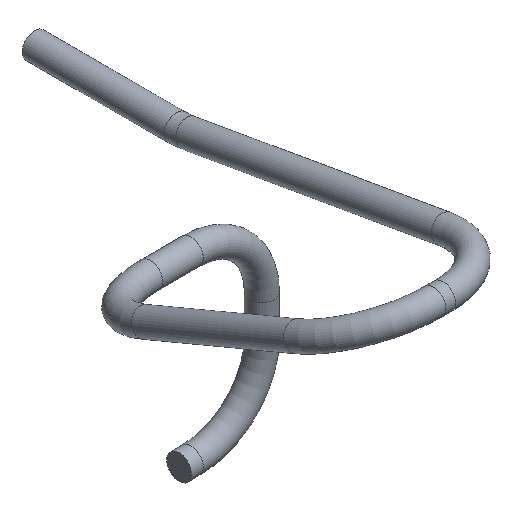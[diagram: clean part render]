
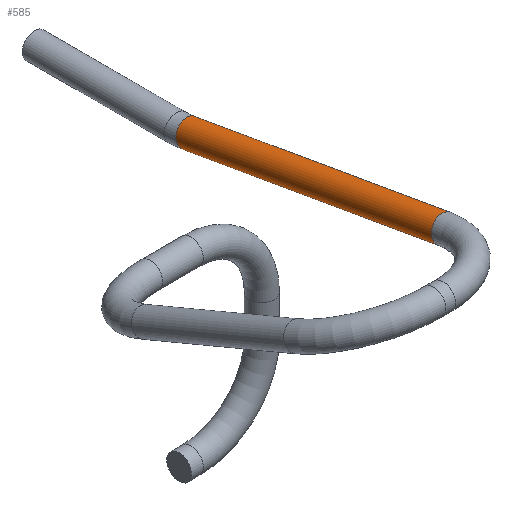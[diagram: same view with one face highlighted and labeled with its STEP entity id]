
A CAD part, isometric view. The second image highlights one B-rep face of the part: STEP entity #585.
In plain terms, the highlighted cylindrical face has radius 0.525 mm (diameter 1.05 mm), a full revolution.
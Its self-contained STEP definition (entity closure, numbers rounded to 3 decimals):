
#519 = TOROIDAL_SURFACE('',#520,3.,0.525);
#520 = AXIS2_PLACEMENT_3D('',#521,#522,#523);
#521 = CARTESIAN_POINT('',(28.9,-28.045,-5.017));
#522 = DIRECTION('',(0.,0.172,0.985));
#523 = DIRECTION('',(0.,-0.985,0.172)
  );
#536 = VERTEX_POINT('',#537);
#537 = CARTESIAN_POINT('',(32.204,-28.119,
    -5.438));
#558 = EDGE_CURVE('',#536,#536,#559,.T.);
#559 = SURFACE_CURVE('',#560,(#565,#572),.PCURVE_S1.);
#560 = CIRCLE('',#561,0.525);
#561 = AXIS2_PLACEMENT_3D('',#562,#563,#564);
#562 = CARTESIAN_POINT('',(31.9,-28.045,-5.017));
#563 = DIRECTION('',(0.,-0.985,0.172)
  );
#564 = DIRECTION('',(1.,0.,0.));
#565 = PCURVE('',#519,#566);
#566 = DEFINITIONAL_REPRESENTATION('',(#567),#571);
#567 = LINE('',#568,#569);
#568 = CARTESIAN_POINT('',(1.571,0.));
#569 = VECTOR('',#570,1.);
#570 = DIRECTION('',(0.,1.));
#571 = ( GEOMETRIC_REPRESENTATION_CONTEXT(2) 
PARAMETRIC_REPRESENTATION_CONTEXT() REPRESENTATION_CONTEXT('2D SPACE',''
  ) );
#572 = PCURVE('',#573,#578);
#573 = CYLINDRICAL_SURFACE('',#574,0.525);
#574 = AXIS2_PLACEMENT_3D('',#575,#576,#577);
#575 = CARTESIAN_POINT('',(31.9,-28.045,-5.017));
#576 = DIRECTION('',(0.,0.985,-0.172));
#577 = DIRECTION('',(0.58,-0.14,-0.802));
#578 = DEFINITIONAL_REPRESENTATION('',(#579),#582);
#579 = B_SPLINE_CURVE_WITH_KNOTS('',1,(#580,#581),.UNSPECIFIED.,.F.,.F.,
  (2,2),(5.331,11.614),.PIECEWISE_BEZIER_KNOTS.);
#580 = CARTESIAN_POINT('',(6.283,0.));
#581 = CARTESIAN_POINT('',(0.,0.));
#582 = ( GEOMETRIC_REPRESENTATION_CONTEXT(2) 
PARAMETRIC_REPRESENTATION_CONTEXT() REPRESENTATION_CONTEXT('2D SPACE',''
  ) );
#585 = ADVANCED_FACE('',(#586),#573,.T.);
#586 = FACE_BOUND('',#587,.T.);
#587 = EDGE_LOOP('',(#588,#610,#636,#637));
#588 = ORIENTED_EDGE('',*,*,#589,.T.);
#589 = EDGE_CURVE('',#536,#590,#592,.T.);
#590 = VERTEX_POINT('',#591);
#591 = CARTESIAN_POINT('',(32.204,-17.33,
    -7.326));
#592 = SEAM_CURVE('',#593,(#597,#603),.PCURVE_S1.);
#593 = LINE('',#594,#595);
#594 = CARTESIAN_POINT('',(32.204,-28.119,
    -5.438));
#595 = VECTOR('',#596,1.);
#596 = DIRECTION('',(0.,0.985,-0.172));
#597 = PCURVE('',#573,#598);
#598 = DEFINITIONAL_REPRESENTATION('',(#599),#602);
#599 = B_SPLINE_CURVE_WITH_KNOTS('',1,(#600,#601),.UNSPECIFIED.,.F.,.F.,
  (2,2),(0.,10.952),.PIECEWISE_BEZIER_KNOTS.);
#600 = CARTESIAN_POINT('',(6.283,0.));
#601 = CARTESIAN_POINT('',(6.283,10.952));
#602 = ( GEOMETRIC_REPRESENTATION_CONTEXT(2) 
PARAMETRIC_REPRESENTATION_CONTEXT() REPRESENTATION_CONTEXT('2D SPACE',''
  ) );
#603 = PCURVE('',#573,#604);
#604 = DEFINITIONAL_REPRESENTATION('',(#605),#609);
#605 = LINE('',#606,#607);
#606 = CARTESIAN_POINT('',(0.,0.));
#607 = VECTOR('',#608,1.);
#608 = DIRECTION('',(0.,1.));
#609 = ( GEOMETRIC_REPRESENTATION_CONTEXT(2) 
PARAMETRIC_REPRESENTATION_CONTEXT() REPRESENTATION_CONTEXT('2D SPACE',''
  ) );
#610 = ORIENTED_EDGE('',*,*,#611,.F.);
#611 = EDGE_CURVE('',#590,#590,#612,.T.);
#612 = SURFACE_CURVE('',#613,(#618,#625),.PCURVE_S1.);
#613 = CIRCLE('',#614,0.525);
#614 = AXIS2_PLACEMENT_3D('',#615,#616,#617);
#615 = CARTESIAN_POINT('',(31.9,-17.257,-6.905));
#616 = DIRECTION('',(0.,0.985,-0.172)
  );
#617 = DIRECTION('',(0.58,-0.14,-0.802));
#618 = PCURVE('',#573,#619);
#619 = DEFINITIONAL_REPRESENTATION('',(#620),#624);
#620 = LINE('',#621,#622);
#621 = CARTESIAN_POINT('',(0.,10.952));
#622 = VECTOR('',#623,1.);
#623 = DIRECTION('',(1.,0.));
#624 = ( GEOMETRIC_REPRESENTATION_CONTEXT(2) 
PARAMETRIC_REPRESENTATION_CONTEXT() REPRESENTATION_CONTEXT('2D SPACE',''
  ) );
#625 = PCURVE('',#626,#631);
#626 = TOROIDAL_SURFACE('',#627,3.,0.525);
#627 = AXIS2_PLACEMENT_3D('',#628,#629,#630);
#628 = CARTESIAN_POINT('',(31.9,-16.739,-3.95));
#629 = DIRECTION('',(1.,0.,0.));
#630 = DIRECTION('',(0.,-0.172,-0.985));
#631 = DEFINITIONAL_REPRESENTATION('',(#632),#635);
#632 = B_SPLINE_CURVE_WITH_KNOTS('',1,(#633,#634),.UNSPECIFIED.,.F.,.F.,
  (2,2),(0.,6.283),.PIECEWISE_BEZIER_KNOTS.);
#633 = CARTESIAN_POINT('',(0.,6.902));
#634 = CARTESIAN_POINT('',(0.,0.619));
#635 = ( GEOMETRIC_REPRESENTATION_CONTEXT(2) 
PARAMETRIC_REPRESENTATION_CONTEXT() REPRESENTATION_CONTEXT('2D SPACE',''
  ) );
#636 = ORIENTED_EDGE('',*,*,#589,.F.);
#637 = ORIENTED_EDGE('',*,*,#558,.F.);
